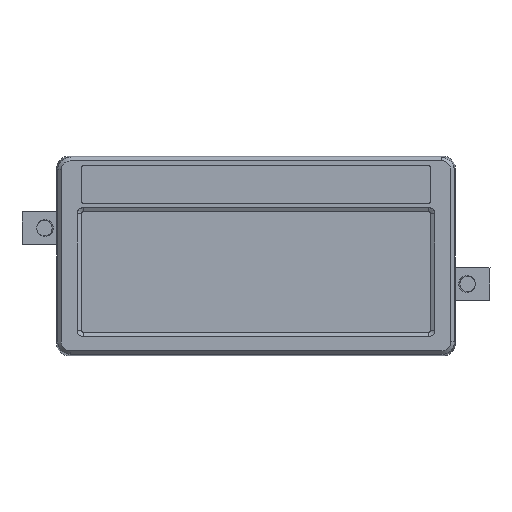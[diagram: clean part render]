
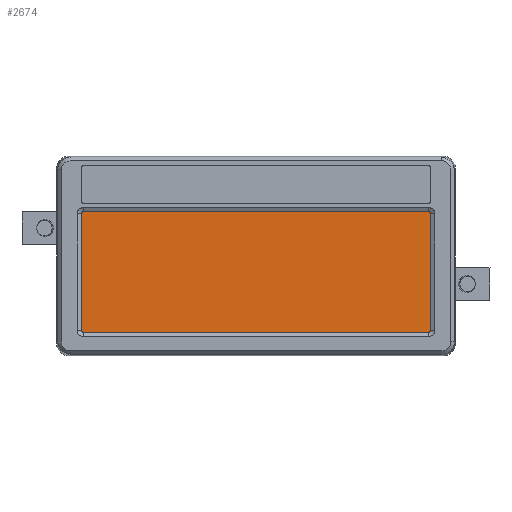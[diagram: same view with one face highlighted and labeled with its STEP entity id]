
A CAD part, top view. The second image highlights one B-rep face of the part: STEP entity #2674.
In plain terms, the highlighted planar face has unit normal (0, 0, 1) as drawn and (1, 0, 0) by its records, which use the part's own axes.
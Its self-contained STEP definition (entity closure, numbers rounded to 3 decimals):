
#1218 = ORIENTED_EDGE ( 'NONE', *, *, #166530, .T. ) ;
#2674 = ADVANCED_FACE ( 'H', ( #277699 ), #161227, .T. ) ;
#5432 = LINE ( 'NONE', #273299, #9422 ) ;
#6548 = VECTOR ( 'NONE', #101410, 1000. ) ;
#9422 = VECTOR ( 'NONE', #171012, 1000. ) ;
#18908 = LINE ( 'NONE', #100259, #6548 ) ;
#32285 = CARTESIAN_POINT ( 'NONE',  ( 5.6, 0., 0. ) ) ;
#35385 = ORIENTED_EDGE ( 'NONE', *, *, #206940, .T. ) ;
#35928 = VECTOR ( 'NONE', #280292, 1000. ) ;
#43450 = CARTESIAN_POINT ( 'NONE',  ( 5.6, -45., -21. ) ) ;
#48757 = ORIENTED_EDGE ( 'NONE', *, *, #219087, .T. ) ;
#57392 = VERTEX_POINT ( 'NONE', #298341 ) ;
#72284 = CARTESIAN_POINT ( 'NONE',  ( 5.6, -45., 21. ) ) ;
#73323 = CARTESIAN_POINT ( 'NONE',  ( 5.6, -45., 21. ) ) ;
#73787 = AXIS2_PLACEMENT_3D ( 'NONE', #32285, #109041, #217009 ) ;
#98931 = DIRECTION ( 'NONE',  ( 0., -1., 0. ) ) ;
#100259 = CARTESIAN_POINT ( 'NONE',  ( 5.6, 45., -21. ) ) ;
#101410 = DIRECTION ( 'NONE',  ( 0., 1., 0. ) ) ;
#109041 = DIRECTION ( 'NONE',  ( 1., 0., 0. ) ) ;
#135391 = VECTOR ( 'NONE', #98931, 1000. ) ;
#151266 = VERTEX_POINT ( 'NONE', #73323 ) ;
#160537 = ORIENTED_EDGE ( 'NONE', *, *, #308404, .T. ) ;
#161227 = PLANE ( 'NONE',  #73787 ) ;
#166530 = EDGE_CURVE ( 'NONE', #151266, #57392, #318409, .T. ) ;
#171012 = DIRECTION ( 'NONE',  ( 0., 0., 1. ) ) ;
#206940 = EDGE_CURVE ( 'NONE', #57392, #306981, #18908, .T. ) ;
#214346 = LINE ( 'NONE', #72284, #135391 ) ;
#217009 = DIRECTION ( 'NONE',  ( 0., 0., -1. ) ) ;
#219087 = EDGE_CURVE ( 'NONE', #306981, #309003, #5432, .T. ) ;
#251724 = EDGE_LOOP ( 'NONE', ( #35385, #48757, #160537, #1218 ) ) ;
#264010 = CARTESIAN_POINT ( 'NONE',  ( 5.6, 45., -21. ) ) ;
#271892 = CARTESIAN_POINT ( 'NONE',  ( 5.6, 45., 21. ) ) ;
#273299 = CARTESIAN_POINT ( 'NONE',  ( 5.6, 45., 21. ) ) ;
#277699 = FACE_OUTER_BOUND ( 'NONE', #251724, .T. ) ;
#280292 = DIRECTION ( 'NONE',  ( 0., 0., -1. ) ) ;
#298341 = CARTESIAN_POINT ( 'NONE',  ( 5.6, -45., -21. ) ) ;
#306981 = VERTEX_POINT ( 'NONE', #264010 ) ;
#308404 = EDGE_CURVE ( 'NONE', #309003, #151266, #214346, .T. ) ;
#309003 = VERTEX_POINT ( 'NONE', #271892 ) ;
#318409 = LINE ( 'NONE', #43450, #35928 ) ;
